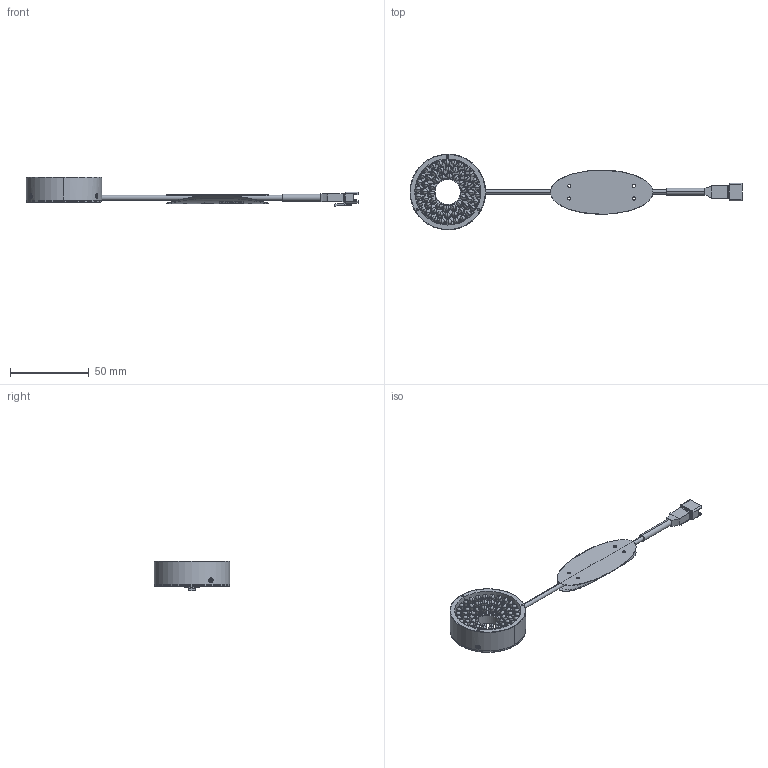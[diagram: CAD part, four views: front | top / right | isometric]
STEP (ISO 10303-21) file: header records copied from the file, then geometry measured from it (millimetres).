
FILE_DESCRIPTION(('STEP AP214'),'1');
FILE_NAME('VDR-4816_DRAWING_3D.step','2023-09-28T11:13:39',(' '),(' '),'Spatial InterOp 3D',' ',' ');
FILE_SCHEMA(('AUTOMOTIVE_DESIGN { 1 0 10303 214 1 1 1 1 }'));
Length unit declared in the file: millimetre
Products named in the file (8): BASE; PCB ASSY; R7M-2; COVER; cable; CABEL TAG (VS).stp; MXB4508
Assembly tree (9 placements, depth 2):
  (unnamed)
    BASE
    PCB ASSY
    R7M-2
    COVER
    cable
    CABEL TAG (VS).stp
    MXB4508  x3
Bounding box: 210.61 x 48 x 18.75 mm (x, y, z)
Volume: 20514.2 mm3; surface area: 27434.6 mm2
Topology: 10 solids, 10 shells, 872 faces, 2515 edges, 1693 vertices
Faces by surface type: cylinder 411, plane 250, sphere 120, cone 73, bspline 12, torus 6
Entity records: 42766 total; most frequent: CARTESIAN_POINT 14451, ORIENTED_EDGE 4566, DIRECTION 4321, EDGE_CURVE 2283, AXIS2_PLACEMENT_3D 1709, VERTEX_POINT 1633, EDGE_LOOP 1040, LINE 903
